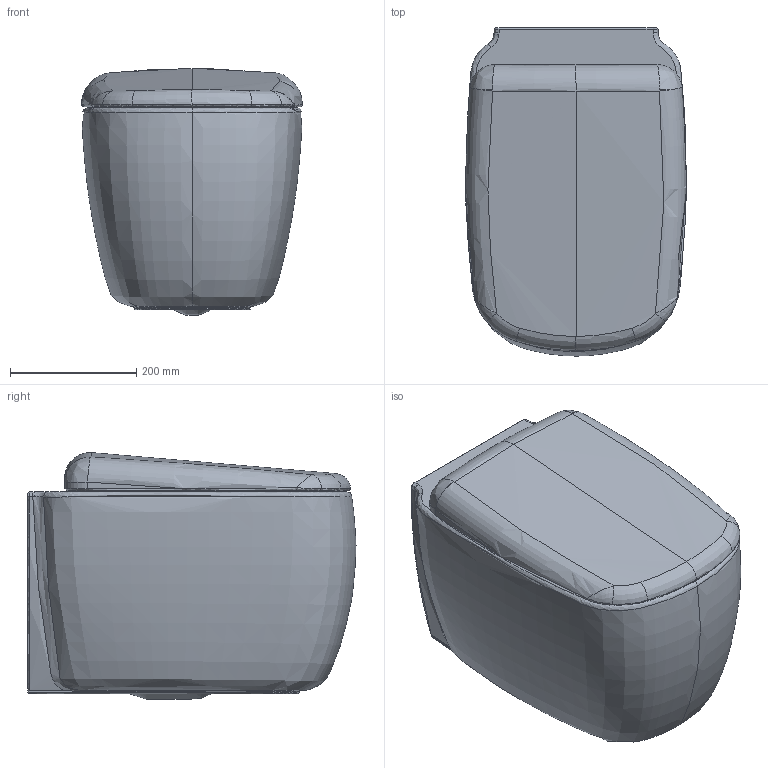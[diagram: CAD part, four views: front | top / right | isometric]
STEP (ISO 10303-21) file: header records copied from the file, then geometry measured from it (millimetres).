
FILE_DESCRIPTION(/* description */ (''),/* implementation_level */ '2;1');
FILE_NAME(/* name */ 'MN118S',/* time_stamp */ '2023-03-29T09:26:00+02:00',/* author */ (''),/* organization */ (''),/* preprocessor_version */ 'ST-DEVELOPER v16.5',/* originating_system */ 'Rhino 7.28',/* authorisation */ '');
FILE_SCHEMA (('CONFIG_CONTROL_DESIGN'));
Length unit declared in the file: millimetre
Products named in the file (1): Document
Bounding box: 350.28 x 519.99 x 391.11 mm (x, y, z)
Volume: 6050305 mm3; surface area: 1111042.4 mm2
Topology: 1 solids, 2 shells, 88 faces, 200 edges, 114 vertices
Faces by surface type: bspline 68, cylinder 13, plane 7
Entity records: 83444 total; most frequent: CARTESIAN_POINT 82168, ORIENTED_EDGE 392, EDGE_CURVE 198, B_SPLINE_CURVE_WITH_KNOTS 116, VERTEX_POINT 114, EDGE_LOOP 90, ADVANCED_FACE 88, FACE_OUTER_BOUND 88
